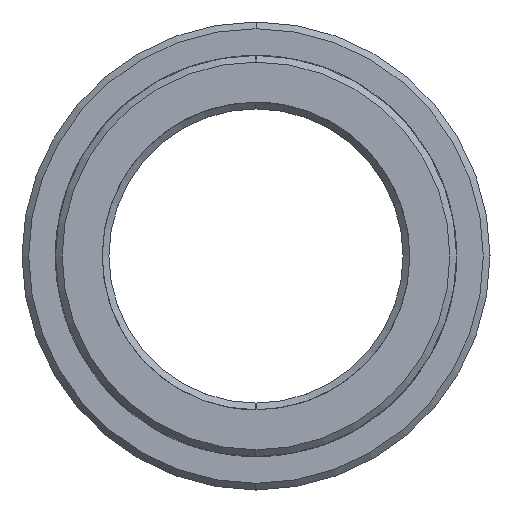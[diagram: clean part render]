
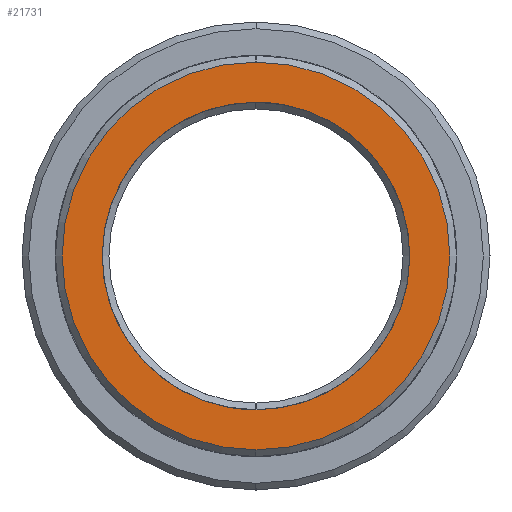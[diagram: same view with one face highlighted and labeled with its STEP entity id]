
A CAD part, left-side view. The second image highlights one B-rep face of the part: STEP entity #21731.
In plain terms, the highlighted planar face has unit normal (1, 0, 0).
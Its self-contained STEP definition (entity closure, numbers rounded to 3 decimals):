
#21648=CARTESIAN_POINT('Axis2P3D Location',(-22.,0.,0.)) ;
#21653=CARTESIAN_POINT('Axis2P3D Location',(-22.,0.,0.)) ;
#21657=CARTESIAN_POINT('Vertex',(-22.,0.,-14.5)) ;
#21659=CARTESIAN_POINT('Vertex',(-22.,0.,14.5)) ;
#21662=CARTESIAN_POINT('Axis2P3D Location',(-22.,0.,0.)) ;
#21672=CARTESIAN_POINT('Control Point',(-22.,0.,11.5)) ;
#21673=CARTESIAN_POINT('Control Point',(-22.,1.163,11.5)) ;
#21674=CARTESIAN_POINT('Control Point',(-22.,2.326,11.353)) ;
#21675=CARTESIAN_POINT('Control Point',(-22.,3.464,11.059)) ;
#21676=CARTESIAN_POINT('Control Point',(-22.,5.641,10.19)) ;
#21677=CARTESIAN_POINT('Control Point',(-22.,7.534,8.806)) ;
#21678=CARTESIAN_POINT('Control Point',(-22.,8.387,7.997)) ;
#21679=CARTESIAN_POINT('Control Point',(-22.,9.871,6.182)) ;
#21680=CARTESIAN_POINT('Control Point',(-22.,10.856,4.055)) ;
#21681=CARTESIAN_POINT('Control Point',(-22.,11.211,2.934)) ;
#21682=CARTESIAN_POINT('Control Point',(-22.,11.63,0.628)) ;
#21683=CARTESIAN_POINT('Control Point',(-22.,11.462,-1.71)) ;
#21684=CARTESIAN_POINT('Control Point',(-22.,11.23,-2.863)) ;
#21685=CARTESIAN_POINT('Control Point',(-22.,10.479,-5.084)) ;
#21686=CARTESIAN_POINT('Control Point',(-22.,9.199,-7.048)) ;
#21687=CARTESIAN_POINT('Control Point',(-22.,8.438,-7.944)) ;
#21688=CARTESIAN_POINT('Control Point',(-22.,6.705,-9.523)) ;
#21689=CARTESIAN_POINT('Control Point',(-22.,4.634,-10.622)) ;
#21690=CARTESIAN_POINT('Control Point',(-22.,3.535,-11.037)) ;
#21691=CARTESIAN_POINT('Control Point',(-22.,2.151,-11.366)) ;
#21692=CARTESIAN_POINT('Control Point',(-22.,0.744,-11.48)) ;
#21693=CARTESIAN_POINT('Control Point',(-22.,0.496,-11.493)) ;
#21694=CARTESIAN_POINT('Control Point',(-22.,0.248,-11.5)) ;
#21695=CARTESIAN_POINT('Control Point',(-22.,0.,-11.5)) ;
#21696=CARTESIAN_POINT('Vertex',(-22.,0.,11.5)) ;
#21698=CARTESIAN_POINT('Vertex',(-22.,0.,-11.5)) ;
#21702=CARTESIAN_POINT('Control Point',(-22.,0.,-11.5)) ;
#21703=CARTESIAN_POINT('Control Point',(-22.,-1.163,-11.5)) ;
#21704=CARTESIAN_POINT('Control Point',(-22.,-2.326,-11.353)) ;
#21705=CARTESIAN_POINT('Control Point',(-22.,-3.464,-11.059)) ;
#21706=CARTESIAN_POINT('Control Point',(-22.,-5.641,-10.19)) ;
#21707=CARTESIAN_POINT('Control Point',(-22.,-7.534,-8.806)) ;
#21708=CARTESIAN_POINT('Control Point',(-22.,-8.387,-7.997)) ;
#21709=CARTESIAN_POINT('Control Point',(-22.,-9.871,-6.182)) ;
#21710=CARTESIAN_POINT('Control Point',(-22.,-10.856,-4.055)) ;
#21711=CARTESIAN_POINT('Control Point',(-22.,-11.211,-2.934)) ;
#21712=CARTESIAN_POINT('Control Point',(-22.,-11.63,-0.628)) ;
#21713=CARTESIAN_POINT('Control Point',(-22.,-11.462,1.71)) ;
#21714=CARTESIAN_POINT('Control Point',(-22.,-11.23,2.863)) ;
#21715=CARTESIAN_POINT('Control Point',(-22.,-10.479,5.084)) ;
#21716=CARTESIAN_POINT('Control Point',(-22.,-9.199,7.048)) ;
#21717=CARTESIAN_POINT('Control Point',(-22.,-8.438,7.944)) ;
#21718=CARTESIAN_POINT('Control Point',(-22.,-6.705,9.523)) ;
#21719=CARTESIAN_POINT('Control Point',(-22.,-4.634,10.622)) ;
#21720=CARTESIAN_POINT('Control Point',(-22.,-3.535,11.037)) ;
#21721=CARTESIAN_POINT('Control Point',(-22.,-2.151,11.366)) ;
#21722=CARTESIAN_POINT('Control Point',(-22.,-0.744,11.48)) ;
#21723=CARTESIAN_POINT('Control Point',(-22.,-0.496,11.493)) ;
#21724=CARTESIAN_POINT('Control Point',(-22.,-0.248,11.5)) ;
#21725=CARTESIAN_POINT('Control Point',(-22.,0.,11.5)) ;
#21649=DIRECTION('Axis2P3D Direction',(1.,0.,0.)) ;
#21650=DIRECTION('Axis2P3D XDirection',(0.,1.,0.)) ;
#21654=DIRECTION('Axis2P3D Direction',(1.,0.,0.)) ;
#21663=DIRECTION('Axis2P3D Direction',(1.,0.,0.)) ;
#21651=AXIS2_PLACEMENT_3D('Plane Axis2P3D',#21648,#21649,#21650) ;
#21655=AXIS2_PLACEMENT_3D('Circle Axis2P3D',#21653,#21654,$) ;
#21664=AXIS2_PLACEMENT_3D('Circle Axis2P3D',#21662,#21663,$) ;
#21668=ORIENTED_EDGE('',*,*,#21661,.T.) ;
#21669=ORIENTED_EDGE('',*,*,#21666,.T.) ;
#21728=ORIENTED_EDGE('',*,*,#21700,.T.) ;
#21729=ORIENTED_EDGE('',*,*,#21726,.T.) ;
#21730=FACE_BOUND('',#21727,.T.) ;
#21731=ADVANCED_FACE('MANIFOLD_SOLID_BREP #11573',(#21670,#21730),#21652,.T.) ;
#21671=B_SPLINE_CURVE_WITH_KNOTS('',5,(#21672,#21673,#21674,#21675,#21676,#21677,#21678,#21679,#21680,#21681,#21682,#21683,#21684,#21685,#21686,#21687,#21688,#21689,#21690,#21691,#21692,#21693,#21694,#21695),.UNSPECIFIED.,.F.,.U.,(6,3,3,3,3,3,3,6),(0.,8.223,16.446,24.669,32.892,41.115,49.338,51.092),.UNSPECIFIED.) ;
#21701=B_SPLINE_CURVE_WITH_KNOTS('',5,(#21702,#21703,#21704,#21705,#21706,#21707,#21708,#21709,#21710,#21711,#21712,#21713,#21714,#21715,#21716,#21717,#21718,#21719,#21720,#21721,#21722,#21723,#21724,#21725),.UNSPECIFIED.,.F.,.U.,(6,3,3,3,3,3,3,6),(0.,8.223,16.446,24.669,32.892,41.115,49.338,51.092),.UNSPECIFIED.) ;
#21656=CIRCLE('generated circle',#21655,14.5) ;
#21665=CIRCLE('generated circle',#21664,14.5) ;
#21661=EDGE_CURVE('',#21658,#21660,#21656,.T.) ;
#21666=EDGE_CURVE('',#21660,#21658,#21665,.T.) ;
#21700=EDGE_CURVE('',#21697,#21699,#21671,.T.) ;
#21726=EDGE_CURVE('',#21699,#21697,#21701,.T.) ;
#21667=EDGE_LOOP('',(#21668,#21669)) ;
#21727=EDGE_LOOP('',(#21728,#21729)) ;
#21670=FACE_OUTER_BOUND('',#21667,.T.) ;
#21652=PLANE('Plane',#21651) ;
#21658=VERTEX_POINT('',#21657) ;
#21660=VERTEX_POINT('',#21659) ;
#21697=VERTEX_POINT('',#21696) ;
#21699=VERTEX_POINT('',#21698) ;
